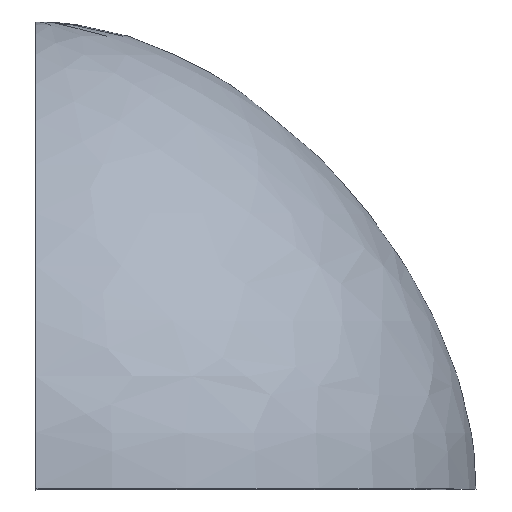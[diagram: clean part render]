
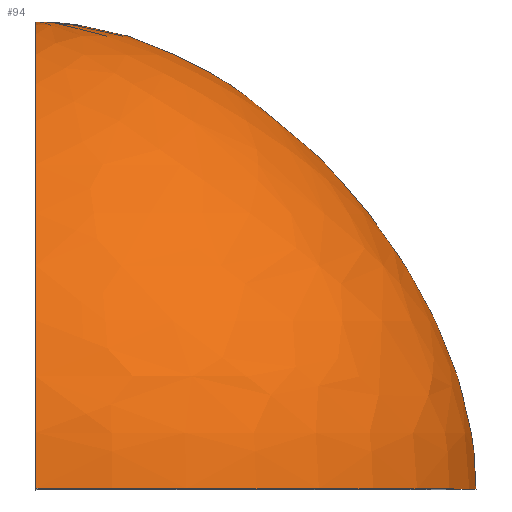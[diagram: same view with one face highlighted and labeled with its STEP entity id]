
A CAD part, top view. The second image highlights one B-rep face of the part: STEP entity #94.
In plain terms, the highlighted face is a revolution surface.
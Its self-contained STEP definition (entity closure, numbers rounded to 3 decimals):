
#52=CARTESIAN_POINT('Control Point',(0.,0.,97.)) ;
#53=CARTESIAN_POINT('Control Point',(0.,28.297,97.)) ;
#54=CARTESIAN_POINT('Control Point',(0.,57.584,83.361)) ;
#55=CARTESIAN_POINT('Control Point',(0.,87.861,56.084)) ;
#56=CARTESIAN_POINT('Control Point',(0.,103.,28.297)) ;
#57=CARTESIAN_POINT('Control Point',(0.,103.,0.)) ;
#58=CARTESIAN_POINT('Axis1P Location',(0.,0.,0.)) ;
#63=CARTESIAN_POINT('Control Point',(0.,0.,-97.)) ;
#64=CARTESIAN_POINT('Control Point',(0.,28.297,-97.)) ;
#65=CARTESIAN_POINT('Control Point',(0.,57.584,-83.361)) ;
#66=CARTESIAN_POINT('Control Point',(0.,87.861,-56.084)) ;
#67=CARTESIAN_POINT('Control Point',(0.,103.,-28.297)) ;
#68=CARTESIAN_POINT('Control Point',(0.,103.,0.)) ;
#69=CARTESIAN_POINT('Vertex',(0.,0.,-97.)) ;
#71=CARTESIAN_POINT('Vertex',(0.,103.,0.)) ;
#75=CARTESIAN_POINT('Control Point',(0.,0.,97.)) ;
#76=CARTESIAN_POINT('Control Point',(0.,28.297,97.)) ;
#77=CARTESIAN_POINT('Control Point',(0.,57.584,83.361)) ;
#78=CARTESIAN_POINT('Control Point',(0.,87.861,56.084)) ;
#79=CARTESIAN_POINT('Control Point',(0.,103.,28.297)) ;
#80=CARTESIAN_POINT('Control Point',(0.,103.,0.)) ;
#81=CARTESIAN_POINT('Vertex',(0.,0.,97.)) ;
#84=CARTESIAN_POINT('Axis2P3D Location',(0.,0.,0.)) ;
#59=DIRECTION('Axis1P Direction',(0.,1.,0.)) ;
#85=DIRECTION('Axis2P3D Direction',(0.,1.,0.)) ;
#86=AXIS2_PLACEMENT_3D('Circle Axis2P3D',#84,#85,$) ;
#90=ORIENTED_EDGE('',*,*,#73,.T.) ;
#91=ORIENTED_EDGE('',*,*,#83,.F.) ;
#92=ORIENTED_EDGE('',*,*,#88,.T.) ;
#94=ADVANCED_FACE('PartBody',(#93),#61,.T.) ;
#60=AXIS1_PLACEMENT('Revolution Surface Axis1P',#58,#59) ;
#51=B_SPLINE_CURVE_WITH_KNOTS('',5,(#52,#53,#54,#55,#56,#57),.UNSPECIFIED.,.F.,.U.,(6,6),(0.,141.485),.UNSPECIFIED.) ;
#62=B_SPLINE_CURVE_WITH_KNOTS('',5,(#63,#64,#65,#66,#67,#68),.UNSPECIFIED.,.F.,.U.,(6,6),(0.,141.485),.UNSPECIFIED.) ;
#74=B_SPLINE_CURVE_WITH_KNOTS('',5,(#75,#76,#77,#78,#79,#80),.UNSPECIFIED.,.F.,.U.,(6,6),(0.,141.485),.UNSPECIFIED.) ;
#87=CIRCLE('generated circle',#86,97.) ;
#73=EDGE_CURVE('',#70,#72,#62,.T.) ;
#83=EDGE_CURVE('',#82,#72,#74,.T.) ;
#88=EDGE_CURVE('',#82,#70,#87,.T.) ;
#89=EDGE_LOOP('',(#90,#91,#92)) ;
#93=FACE_OUTER_BOUND('',#89,.T.) ;
#61=SURFACE_OF_REVOLUTION('Surface of Revolution',#51,#60) ;
#70=VERTEX_POINT('',#69) ;
#72=VERTEX_POINT('',#71) ;
#82=VERTEX_POINT('',#81) ;
